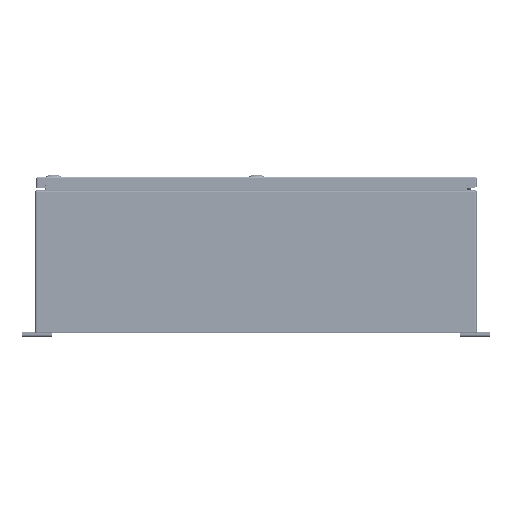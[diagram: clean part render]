
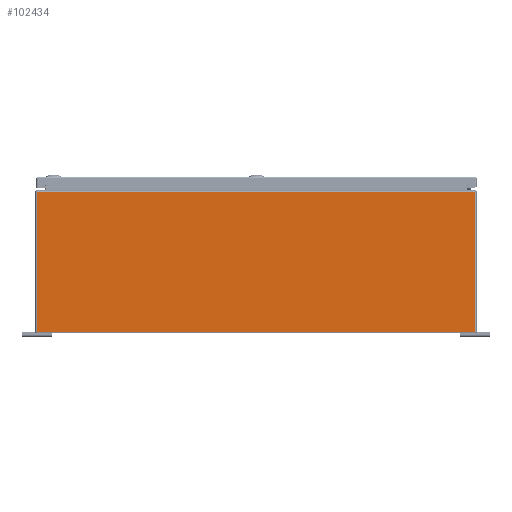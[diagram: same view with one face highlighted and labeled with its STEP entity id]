
A CAD part, left-side view. The second image highlights one B-rep face of the part: STEP entity #102434.
In plain terms, the highlighted planar face has unit normal (-1, 0, 0).
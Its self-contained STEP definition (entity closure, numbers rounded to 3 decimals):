
#6207=PLANE('',#109687);
#8800=LINE('',#144874,#16959);
#8801=LINE('',#144878,#16960);
#8802=LINE('',#144880,#16961);
#8803=LINE('',#144882,#16962);
#8804=LINE('',#144884,#16963);
#8805=LINE('',#144885,#16964);
#16959=VECTOR('',#118796,0.394);
#16960=VECTOR('',#118801,0.394);
#16961=VECTOR('',#118802,0.394);
#16962=VECTOR('',#118803,0.394);
#16963=VECTOR('',#118804,0.394);
#16964=VECTOR('',#118805,0.394);
#26756=FACE_OUTER_BOUND('',#32795,.T.);
#32795=EDGE_LOOP('',(#69493,#69494,#69495,#69496,#69497,#69498));
#43216=VERTEX_POINT('',#144856);
#43223=VERTEX_POINT('',#144873);
#43224=VERTEX_POINT('',#144877);
#43225=VERTEX_POINT('',#144879);
#43226=VERTEX_POINT('',#144881);
#43227=VERTEX_POINT('',#144883);
#53484=EDGE_CURVE('',#43216,#43223,#8800,.T.);
#53486=EDGE_CURVE('',#43224,#43216,#8801,.T.);
#53487=EDGE_CURVE('',#43224,#43225,#8802,.T.);
#53488=EDGE_CURVE('',#43226,#43225,#8803,.T.);
#53489=EDGE_CURVE('',#43227,#43226,#8804,.T.);
#53490=EDGE_CURVE('',#43227,#43223,#8805,.T.);
#69493=ORIENTED_EDGE('',*,*,#53486,.F.);
#69494=ORIENTED_EDGE('',*,*,#53487,.T.);
#69495=ORIENTED_EDGE('',*,*,#53488,.F.);
#69496=ORIENTED_EDGE('',*,*,#53489,.F.);
#69497=ORIENTED_EDGE('',*,*,#53490,.T.);
#69498=ORIENTED_EDGE('',*,*,#53484,.F.);
#102434=ADVANCED_FACE('',(#26756),#6207,.F.);
#109687=AXIS2_PLACEMENT_3D('',#144876,#118799,#118800);
#118796=DIRECTION('',(0.,0.,-1.));
#118799=DIRECTION('center_axis',(1.,0.,0.));
#118800=DIRECTION('ref_axis',(0.,0.,-1.));
#118801=DIRECTION('',(0.,-1.,0.));
#118802=DIRECTION('',(0.,1.,0.));
#118803=DIRECTION('',(0.,-1.,0.));
#118804=DIRECTION('',(0.,0.,1.));
#118805=DIRECTION('',(0.,-1.,0.));
#144856=CARTESIAN_POINT('',(-33.,-18.401,11.901));
#144873=CARTESIAN_POINT('',(-33.,-18.401,0.099));
#144874=CARTESIAN_POINT('',(-33.,-18.401,6.));
#144876=CARTESIAN_POINT('Origin',(-33.,0.,6.));
#144877=CARTESIAN_POINT('',(-33.,-17.626,11.901));
#144878=CARTESIAN_POINT('',(-33.,-9.225,11.901));
#144879=CARTESIAN_POINT('',(-33.,17.626,11.901));
#144880=CARTESIAN_POINT('',(-33.,9.205,11.901));
#144881=CARTESIAN_POINT('',(-33.,18.401,11.901));
#144882=CARTESIAN_POINT('',(-33.,-9.225,11.901));
#144883=CARTESIAN_POINT('',(-33.,18.401,0.099));
#144884=CARTESIAN_POINT('',(-33.,18.401,6.));
#144885=CARTESIAN_POINT('',(-33.,9.25,0.099));
